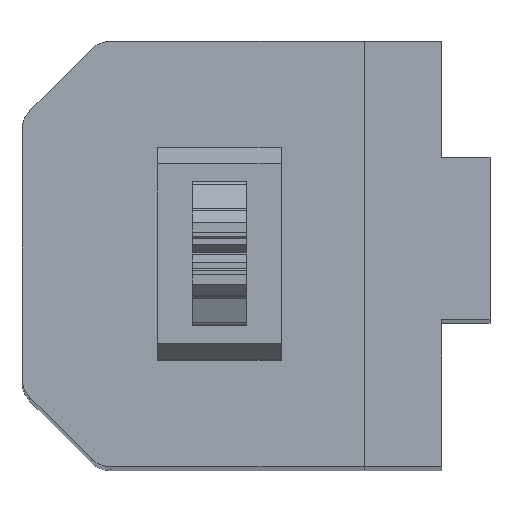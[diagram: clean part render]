
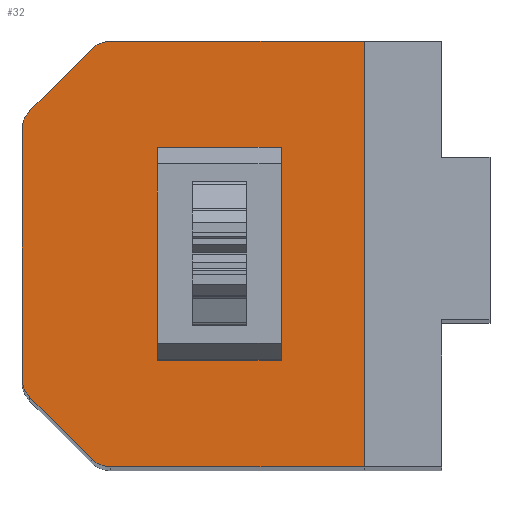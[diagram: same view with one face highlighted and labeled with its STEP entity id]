
A CAD part, top view. The second image highlights one B-rep face of the part: STEP entity #32.
In plain terms, the highlighted planar face has unit normal (0, 0, 1).
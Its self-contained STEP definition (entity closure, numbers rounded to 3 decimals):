
#32 = ADVANCED_FACE('',(#33,#119),#153,.T.);
#33 = FACE_BOUND('',#34,.T.);
#34 = EDGE_LOOP('',(#35,#45,#53,#61,#70,#78,#87,#95,#104,#112));
#35 = ORIENTED_EDGE('',*,*,#36,.F.);
#36 = EDGE_CURVE('',#37,#39,#41,.T.);
#37 = VERTEX_POINT('',#38);
#38 = CARTESIAN_POINT('',(2272.5,-267.,-300.));
#39 = VERTEX_POINT('',#40);
#40 = CARTESIAN_POINT('',(2206.899,-267.,-300.));
#41 = LINE('',#42,#43);
#42 = CARTESIAN_POINT('',(2206.899,-267.,-300.));
#43 = VECTOR('',#44,1.);
#44 = DIRECTION('',(-1.,-0.,0.));
#45 = ORIENTED_EDGE('',*,*,#46,.F.);
#46 = EDGE_CURVE('',#47,#37,#49,.T.);
#47 = VERTEX_POINT('',#48);
#48 = CARTESIAN_POINT('',(2272.5,-157.,-300.));
#49 = LINE('',#50,#51);
#50 = CARTESIAN_POINT('',(2272.5,-267.,-300.));
#51 = VECTOR('',#52,1.);
#52 = DIRECTION('',(-0.,-1.,-0.));
#53 = ORIENTED_EDGE('',*,*,#54,.F.);
#54 = EDGE_CURVE('',#55,#47,#57,.T.);
#55 = VERTEX_POINT('',#56);
#56 = CARTESIAN_POINT('',(2206.899,-157.,-300.));
#57 = LINE('',#58,#59);
#58 = CARTESIAN_POINT('',(2272.5,-157.,-300.));
#59 = VECTOR('',#60,1.);
#60 = DIRECTION('',(1.,0.,0.));
#61 = ORIENTED_EDGE('',*,*,#62,.F.);
#62 = EDGE_CURVE('',#63,#55,#65,.T.);
#63 = VERTEX_POINT('',#64);
#64 = CARTESIAN_POINT('',(2201.95,-159.05,-300.));
#65 = CIRCLE('',#66,7.);
#66 = AXIS2_PLACEMENT_3D('',#67,#68,#69);
#67 = CARTESIAN_POINT('',(2206.899,-164.,-300.));
#68 = DIRECTION('',(0.,0.,-1.));
#69 = DIRECTION('',(1.,0.,0.));
#70 = ORIENTED_EDGE('',*,*,#71,.F.);
#71 = EDGE_CURVE('',#72,#63,#74,.T.);
#72 = VERTEX_POINT('',#73);
#73 = CARTESIAN_POINT('',(2186.05,-174.95,-300.));
#74 = LINE('',#75,#76);
#75 = CARTESIAN_POINT('',(2201.95,-159.05,-300.));
#76 = VECTOR('',#77,1.);
#77 = DIRECTION('',(0.707,0.707,0.));
#78 = ORIENTED_EDGE('',*,*,#79,.F.);
#79 = EDGE_CURVE('',#80,#72,#82,.T.);
#80 = VERTEX_POINT('',#81);
#81 = CARTESIAN_POINT('',(2184.,-179.899,-300.));
#82 = CIRCLE('',#83,7.);
#83 = AXIS2_PLACEMENT_3D('',#84,#85,#86);
#84 = CARTESIAN_POINT('',(2191.,-179.899,-300.));
#85 = DIRECTION('',(0.,0.,-1.));
#86 = DIRECTION('',(1.,0.,0.));
#87 = ORIENTED_EDGE('',*,*,#88,.F.);
#88 = EDGE_CURVE('',#89,#80,#91,.T.);
#89 = VERTEX_POINT('',#90);
#90 = CARTESIAN_POINT('',(2184.,-244.101,-300.));
#91 = LINE('',#92,#93);
#92 = CARTESIAN_POINT('',(2184.,-179.899,-300.));
#93 = VECTOR('',#94,1.);
#94 = DIRECTION('',(-0.,1.,-0.));
#95 = ORIENTED_EDGE('',*,*,#96,.F.);
#96 = EDGE_CURVE('',#97,#89,#99,.T.);
#97 = VERTEX_POINT('',#98);
#98 = CARTESIAN_POINT('',(2186.05,-249.05,-300.));
#99 = CIRCLE('',#100,7.);
#100 = AXIS2_PLACEMENT_3D('',#101,#102,#103);
#101 = CARTESIAN_POINT('',(2191.,-244.101,-300.));
#102 = DIRECTION('',(0.,0.,-1.));
#103 = DIRECTION('',(1.,0.,0.));
#104 = ORIENTED_EDGE('',*,*,#105,.F.);
#105 = EDGE_CURVE('',#106,#97,#108,.T.);
#106 = VERTEX_POINT('',#107);
#107 = CARTESIAN_POINT('',(2201.95,-264.95,-300.));
#108 = LINE('',#109,#110);
#109 = CARTESIAN_POINT('',(2186.05,-249.05,-300.));
#110 = VECTOR('',#111,1.);
#111 = DIRECTION('',(-0.707,0.707,0.)
  );
#112 = ORIENTED_EDGE('',*,*,#113,.F.);
#113 = EDGE_CURVE('',#39,#106,#114,.T.);
#114 = CIRCLE('',#115,7.);
#115 = AXIS2_PLACEMENT_3D('',#116,#117,#118);
#116 = CARTESIAN_POINT('',(2206.899,-260.,-300.));
#117 = DIRECTION('',(0.,0.,-1.));
#118 = DIRECTION('',(1.,0.,0.));
#119 = FACE_BOUND('',#120,.T.);
#120 = EDGE_LOOP('',(#121,#131,#139,#147));
#121 = ORIENTED_EDGE('',*,*,#122,.F.);
#122 = EDGE_CURVE('',#123,#125,#127,.T.);
#123 = VERTEX_POINT('',#124);
#124 = CARTESIAN_POINT('',(2219.,-239.5,-300.));
#125 = VERTEX_POINT('',#126);
#126 = CARTESIAN_POINT('',(2251.,-239.5,-300.));
#127 = LINE('',#128,#129);
#128 = CARTESIAN_POINT('',(2219.,-239.5,-300.));
#129 = VECTOR('',#130,1.);
#130 = DIRECTION('',(1.,-0.,0.));
#131 = ORIENTED_EDGE('',*,*,#132,.F.);
#132 = EDGE_CURVE('',#133,#123,#135,.T.);
#133 = VERTEX_POINT('',#134);
#134 = CARTESIAN_POINT('',(2219.,-184.5,-300.));
#135 = LINE('',#136,#137);
#136 = CARTESIAN_POINT('',(2219.,-239.5,-300.));
#137 = VECTOR('',#138,1.);
#138 = DIRECTION('',(-0.,-1.,-0.));
#139 = ORIENTED_EDGE('',*,*,#140,.T.);
#140 = EDGE_CURVE('',#133,#141,#143,.T.);
#141 = VERTEX_POINT('',#142);
#142 = CARTESIAN_POINT('',(2251.,-184.5,-300.));
#143 = LINE('',#144,#145);
#144 = CARTESIAN_POINT('',(2219.,-184.5,-300.));
#145 = VECTOR('',#146,1.);
#146 = DIRECTION('',(1.,-0.,0.));
#147 = ORIENTED_EDGE('',*,*,#148,.T.);
#148 = EDGE_CURVE('',#141,#125,#149,.T.);
#149 = LINE('',#150,#151);
#150 = CARTESIAN_POINT('',(2251.,-239.5,-300.));
#151 = VECTOR('',#152,1.);
#152 = DIRECTION('',(-0.,-1.,-0.));
#153 = PLANE('',#154);
#154 = AXIS2_PLACEMENT_3D('',#155,#156,#157);
#155 = CARTESIAN_POINT('',(2206.899,-164.,-300.));
#156 = DIRECTION('',(0.,-0.,1.));
#157 = DIRECTION('',(1.,0.,0.));
